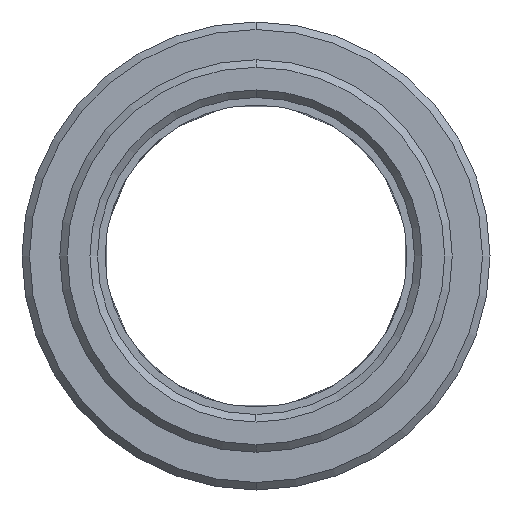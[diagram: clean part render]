
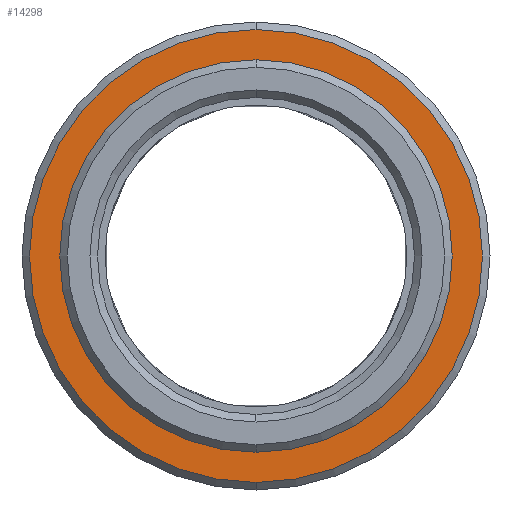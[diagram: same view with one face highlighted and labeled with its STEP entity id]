
A CAD part, left-side view. The second image highlights one B-rep face of the part: STEP entity #14298.
In plain terms, the highlighted planar face has unit normal (-1, 0, 0).
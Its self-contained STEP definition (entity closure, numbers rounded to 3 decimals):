
#5648=CARTESIAN_POINT('',(0.,0.,0.));
#5649=DIRECTION('',(1.,0.,0.));
#5650=DIRECTION('',(0.,0.,1.));
#5651=AXIS2_PLACEMENT_3D('',#5648,#5649,#5650);
#5653=CARTESIAN_POINT('',(0.,0.,0.));
#5654=DIRECTION('',(-1.,0.,0.));
#5655=DIRECTION('',(0.,0.,1.));
#5656=AXIS2_PLACEMENT_3D('',#5653,#5654,#5655);
#5658=CARTESIAN_POINT('',(0.,0.,
0.));
#5659=DIRECTION('',(1.,0.,0.));
#5660=DIRECTION('',(0.,0.,-1.));
#5661=AXIS2_PLACEMENT_3D('',#5658,#5659,#5660);
#5663=CARTESIAN_POINT('',(0.,0.,
0.));
#5664=DIRECTION('',(1.,0.,0.));
#5665=DIRECTION('',(0.,0.,1.));
#5666=AXIS2_PLACEMENT_3D('',#5663,#5664,#5665);
#11482=CARTESIAN_POINT('',(0.,0.,-15.));
#11483=CARTESIAN_POINT('',(0.,0.,15.));
#11484=VERTEX_POINT('',#11482);
#11485=VERTEX_POINT('',#11483);
#11934=CARTESIAN_POINT('',(0.,0.,13.));
#11935=CARTESIAN_POINT('',(0.,0.,-13.));
#11936=VERTEX_POINT('',#11934);
#11937=VERTEX_POINT('',#11935);
#14283=CARTESIAN_POINT('',(0.,0.,0.));
#14284=DIRECTION('',(1.,0.,0.));
#14285=DIRECTION('',(0.,0.,1.));
#14286=AXIS2_PLACEMENT_3D('',#14283,#14284,#14285);
#14287=PLANE('',#14286);
#14289=ORIENTED_EDGE('',*,*,#14288,.T.);
#14291=ORIENTED_EDGE('',*,*,#14290,.T.);
#14292=EDGE_LOOP('',(#14289,#14291));
#14293=FACE_OUTER_BOUND('',#14292,.F.);
#14294=ORIENTED_EDGE('',*,*,#14250,.F.);
#14295=ORIENTED_EDGE('',*,*,#14265,.T.);
#14296=EDGE_LOOP('',(#14294,#14295));
#14297=FACE_BOUND('',#14296,.F.);
#14298=ADVANCED_FACE('',(#14293,#14297),#14287,.F.);
#5652=CIRCLE('',#5651,13.);
#5657=CIRCLE('',#5656,13.);
#5662=CIRCLE('',#5661,15.);
#5667=CIRCLE('',#5666,15.);
#14250=EDGE_CURVE('',#11936,#11937,#5652,.T.);
#14265=EDGE_CURVE('',#11936,#11937,#5657,.T.);
#14288=EDGE_CURVE('',#11484,#11485,#5662,.T.);
#14290=EDGE_CURVE('',#11485,#11484,#5667,.T.);
